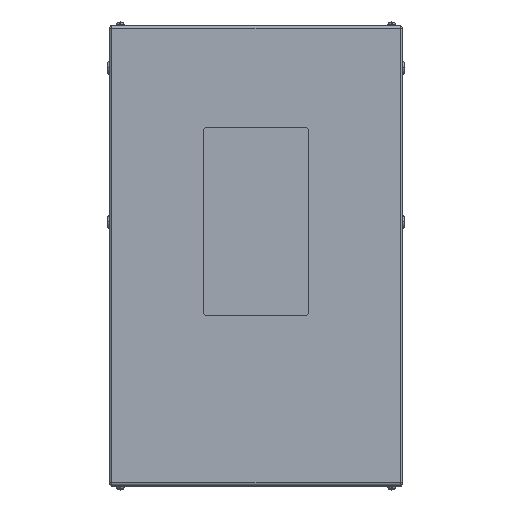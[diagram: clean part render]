
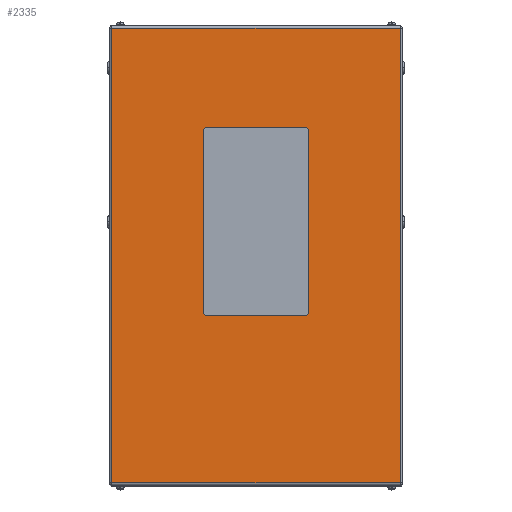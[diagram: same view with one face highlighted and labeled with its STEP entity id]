
A CAD part, top view. The second image highlights one B-rep face of the part: STEP entity #2335.
In plain terms, the highlighted planar face has unit normal (0, 0, 1).
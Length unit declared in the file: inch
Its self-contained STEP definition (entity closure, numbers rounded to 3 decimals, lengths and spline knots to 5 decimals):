
#13 = EDGE_CURVE ( 'NONE', #19719, #18334, #14635, .T. ) ;
#46 = ORIENTED_EDGE ( 'NONE', *, *, #9413, .F. ) ;
#379 = CARTESIAN_POINT ( 'NONE',  ( -4.75, -5.75, 29. ) ) ;
#395 = CARTESIAN_POINT ( 'NONE',  ( 4.75, 12., 29. ) ) ;
#657 = DIRECTION ( 'NONE',  ( 0., -1., 0. ) ) ;
#995 = CARTESIAN_POINT ( 'NONE',  ( -4.75, -5.75, 29. ) ) ;
#1187 = ORIENTED_EDGE ( 'NONE', *, *, #13515, .F. ) ;
#1194 = LINE ( 'NONE', #10167, #15766 ) ;
#1286 = VERTEX_POINT ( 'NONE', #14492 ) ;
#2176 = CARTESIAN_POINT ( 'NONE',  ( 14., 21.734, 29. ) ) ;
#2335 = ADVANCED_FACE ( 'NONE', ( #18454, #7796 ), #13294, .F. ) ;
#2356 = DIRECTION ( 'NONE',  ( -1., 0., 0. ) ) ;
#2393 = DIRECTION ( 'NONE',  ( 0., 1., 0. ) ) ;
#2464 = EDGE_CURVE ( 'NONE', #1286, #7248, #20837, .T. ) ;
#2492 = ORIENTED_EDGE ( 'NONE', *, *, #2464, .T. ) ;
#4162 = DIRECTION ( 'NONE',  ( 0., 0., -1. ) ) ;
#4269 = DIRECTION ( 'NONE',  ( -1., 0., 0. ) ) ;
#4479 = CARTESIAN_POINT ( 'NONE',  ( -4.75, -5.5, 29. ) ) ;
#4489 = CARTESIAN_POINT ( 'NONE',  ( -13.8, 22., 29. ) ) ;
#4790 = VECTOR ( 'NONE', #2393, 39.37008 ) ;
#4920 = EDGE_CURVE ( 'NONE', #10425, #18295, #12846, .T. ) ;
#5133 = EDGE_CURVE ( 'NONE', #20008, #11866, #16732, .T. ) ;
#5828 = VECTOR ( 'NONE', #11696, 39.37008 ) ;
#5860 = CIRCLE ( 'NONE', #10437, 0.25 ) ;
#5899 = DIRECTION ( 'NONE',  ( 1., 0., 0. ) ) ;
#6566 = CARTESIAN_POINT ( 'NONE',  ( 5., 12., 29. ) ) ;
#7006 = CIRCLE ( 'NONE', #20365, 0.25 ) ;
#7248 = VERTEX_POINT ( 'NONE', #19906 ) ;
#7477 = DIRECTION ( 'NONE',  ( 1., 0., 0. ) ) ;
#7771 = VECTOR ( 'NONE', #2356, 39.37008 ) ;
#7777 = ORIENTED_EDGE ( 'NONE', *, *, #19214, .T. ) ;
#7796 = FACE_OUTER_BOUND ( 'NONE', #21874, .T. ) ;
#7960 = EDGE_LOOP ( 'NONE', ( #9023, #11214, #12276, #12143, #46, #12672, #1187, #9224 ) ) ;
#8368 = DIRECTION ( 'NONE',  ( 1., 0., 0. ) ) ;
#9023 = ORIENTED_EDGE ( 'NONE', *, *, #5133, .F. ) ;
#9224 = ORIENTED_EDGE ( 'NONE', *, *, #10220, .F. ) ;
#9413 = EDGE_CURVE ( 'NONE', #18334, #10229, #16963, .T. ) ;
#9472 = EDGE_CURVE ( 'NONE', #7248, #10425, #1194, .T. ) ;
#9496 = CARTESIAN_POINT ( 'NONE',  ( 13.8, 21.734, 29. ) ) ;
#10167 = CARTESIAN_POINT ( 'NONE',  ( 13.8, -21.734, 29. ) ) ;
#10220 = EDGE_CURVE ( 'NONE', #11866, #12174, #21735, .T. ) ;
#10229 = VERTEX_POINT ( 'NONE', #14736 ) ;
#10425 = VERTEX_POINT ( 'NONE', #14364 ) ;
#10437 = AXIS2_PLACEMENT_3D ( 'NONE', #13035, #20477, #5899 ) ;
#10463 = CARTESIAN_POINT ( 'NONE',  ( 4.75, -5.75, 29. ) ) ;
#10503 = VECTOR ( 'NONE', #22123, 39.37008 ) ;
#11184 = ORIENTED_EDGE ( 'NONE', *, *, #4920, .T. ) ;
#11214 = ORIENTED_EDGE ( 'NONE', *, *, #20966, .F. ) ;
#11696 = DIRECTION ( 'NONE',  ( 0., 1., 0. ) ) ;
#11866 = VERTEX_POINT ( 'NONE', #10463 ) ;
#12143 = ORIENTED_EDGE ( 'NONE', *, *, #20813, .F. ) ;
#12174 = VERTEX_POINT ( 'NONE', #17402 ) ;
#12200 = VERTEX_POINT ( 'NONE', #16284 ) ;
#12276 = ORIENTED_EDGE ( 'NONE', *, *, #14330, .F. ) ;
#12672 = ORIENTED_EDGE ( 'NONE', *, *, #13, .F. ) ;
#12751 = AXIS2_PLACEMENT_3D ( 'NONE', #395, #22502, #22264 ) ;
#12846 = LINE ( 'NONE', #20167, #4790 ) ;
#13035 = CARTESIAN_POINT ( 'NONE',  ( -4.75, 12., 29. ) ) ;
#13294 = PLANE ( 'NONE',  #19436 ) ;
#13515 = EDGE_CURVE ( 'NONE', #12174, #19719, #22906, .T. ) ;
#14006 = DIRECTION ( 'NONE',  ( 0., -1., 0. ) ) ;
#14108 = AXIS2_PLACEMENT_3D ( 'NONE', #14602, #15101, #7477 ) ;
#14330 = EDGE_CURVE ( 'NONE', #16480, #12200, #16877, .T. ) ;
#14364 = CARTESIAN_POINT ( 'NONE',  ( 13.8, -21.734, 29. ) ) ;
#14492 = CARTESIAN_POINT ( 'NONE',  ( -13.8, 21.734, 29. ) ) ;
#14602 = CARTESIAN_POINT ( 'NONE',  ( 4.75, -5.5, 29. ) ) ;
#14635 = CIRCLE ( 'NONE', #12751, 0.25 ) ;
#14736 = CARTESIAN_POINT ( 'NONE',  ( -4.75, 12.25, 29. ) ) ;
#15101 = DIRECTION ( 'NONE',  ( 0., 0., 1. ) ) ;
#15408 = DIRECTION ( 'NONE',  ( 1., 0., 0. ) ) ;
#15747 = VECTOR ( 'NONE', #657, 39.37008 ) ;
#15766 = VECTOR ( 'NONE', #15408, 39.37008 ) ;
#16284 = CARTESIAN_POINT ( 'NONE',  ( -5., -5.5, 29. ) ) ;
#16480 = VERTEX_POINT ( 'NONE', #19181 ) ;
#16719 = CARTESIAN_POINT ( 'NONE',  ( -4.75, 12.25, 29. ) ) ;
#16732 = LINE ( 'NONE', #379, #10503 ) ;
#16877 = LINE ( 'NONE', #18598, #15747 ) ;
#16963 = LINE ( 'NONE', #16719, #7771 ) ;
#17402 = CARTESIAN_POINT ( 'NONE',  ( 5., -5.5, 29. ) ) ;
#18282 = VECTOR ( 'NONE', #14006, 39.37008 ) ;
#18295 = VERTEX_POINT ( 'NONE', #9496 ) ;
#18334 = VERTEX_POINT ( 'NONE', #22610 ) ;
#18454 = FACE_BOUND ( 'NONE', #7960, .T. ) ;
#18598 = CARTESIAN_POINT ( 'NONE',  ( -5., 12., 29. ) ) ;
#19126 = ORIENTED_EDGE ( 'NONE', *, *, #9472, .T. ) ;
#19181 = CARTESIAN_POINT ( 'NONE',  ( -5., 12., 29. ) ) ;
#19214 = EDGE_CURVE ( 'NONE', #18295, #1286, #20612, .T. ) ;
#19436 = AXIS2_PLACEMENT_3D ( 'NONE', #20485, #4162, #20370 ) ;
#19719 = VERTEX_POINT ( 'NONE', #20417 ) ;
#19906 = CARTESIAN_POINT ( 'NONE',  ( -13.8, -21.734, 29. ) ) ;
#20008 = VERTEX_POINT ( 'NONE', #995 ) ;
#20167 = CARTESIAN_POINT ( 'NONE',  ( 13.8, 22., 29. ) ) ;
#20365 = AXIS2_PLACEMENT_3D ( 'NONE', #4479, #22925, #8368 ) ;
#20370 = DIRECTION ( 'NONE',  ( -1., 0., 0. ) ) ;
#20417 = CARTESIAN_POINT ( 'NONE',  ( 5., 12., 29. ) ) ;
#20477 = DIRECTION ( 'NONE',  ( 0., 0., 1. ) ) ;
#20485 = CARTESIAN_POINT ( 'NONE',  ( 14., 22., 29. ) ) ;
#20612 = LINE ( 'NONE', #2176, #23053 ) ;
#20813 = EDGE_CURVE ( 'NONE', #10229, #16480, #5860, .T. ) ;
#20837 = LINE ( 'NONE', #4489, #18282 ) ;
#20966 = EDGE_CURVE ( 'NONE', #12200, #20008, #7006, .T. ) ;
#21735 = CIRCLE ( 'NONE', #14108, 0.25 ) ;
#21874 = EDGE_LOOP ( 'NONE', ( #2492, #19126, #11184, #7777 ) ) ;
#22123 = DIRECTION ( 'NONE',  ( 1., 0., 0. ) ) ;
#22264 = DIRECTION ( 'NONE',  ( -1., 0., 0. ) ) ;
#22502 = DIRECTION ( 'NONE',  ( 0., 0., 1. ) ) ;
#22610 = CARTESIAN_POINT ( 'NONE',  ( 4.75, 12.25, 29. ) ) ;
#22906 = LINE ( 'NONE', #6566, #5828 ) ;
#22925 = DIRECTION ( 'NONE',  ( 0., 0., 1. ) ) ;
#23053 = VECTOR ( 'NONE', #4269, 39.37008 ) ;
